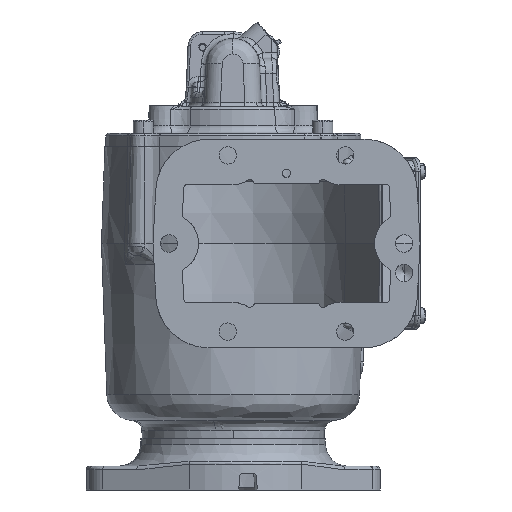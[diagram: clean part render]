
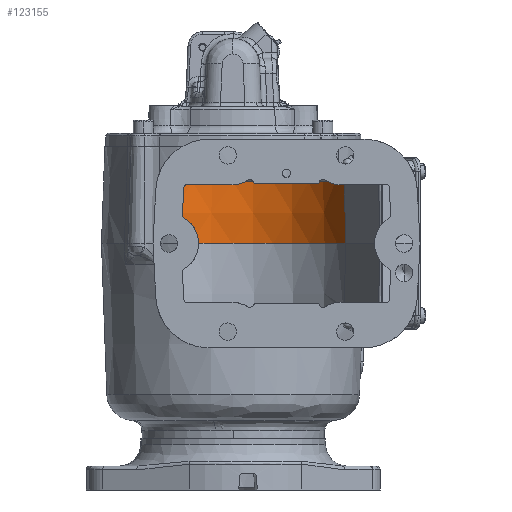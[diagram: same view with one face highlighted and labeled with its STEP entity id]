
A CAD part, front view. The second image highlights one B-rep face of the part: STEP entity #123155.
In plain terms, the highlighted conical face has half-angle 2 degrees and reference radius 71.882 mm.
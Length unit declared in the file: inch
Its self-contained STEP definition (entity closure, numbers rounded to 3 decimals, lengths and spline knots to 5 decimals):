
#4784 = DIRECTION ( 'NONE',  ( 0., 0., 1. ) ) ;
#6928 = DIRECTION ( 'NONE',  ( 0., 0., 1. ) ) ;
#11391 = ORIENTED_EDGE ( 'NONE', *, *, #82810, .T. ) ;
#29210 = CARTESIAN_POINT ( 'NONE',  ( 1.39203, 4.34378, 0. ) ) ;
#33577 = VERTEX_POINT ( 'NONE', #93646 ) ;
#33675 = EDGE_CURVE ( 'NONE', #193141, #33577, #110424, .T. ) ;
#37535 = EDGE_CURVE ( 'NONE', #54390, #33577, #99983, .T. ) ;
#47349 = DIRECTION ( 'NONE',  ( -0.035, 0., -0.999 ) ) ;
#48370 = CARTESIAN_POINT ( 'NONE',  ( -4.08, 3.3296, 0. ) ) ;
#54390 = VERTEX_POINT ( 'NONE', #103411 ) ;
#54956 = DIRECTION ( 'NONE',  ( 0., -1., 0. ) ) ;
#62910 = AXIS2_PLACEMENT_3D ( 'NONE', #149823, #6928, #103574 ) ;
#72131 = ORIENTED_EDGE ( 'NONE', *, *, #102020, .T. ) ;
#82088 = DIRECTION ( 'NONE',  ( 0., 0., -1. ) ) ;
#82810 = EDGE_CURVE ( 'NONE', #138808, #185829, #197184, .T. ) ;
#89918 = ORIENTED_EDGE ( 'NONE', *, *, #37535, .F. ) ;
#91655 = CARTESIAN_POINT ( 'NONE',  ( -1.25, 3.3296, 1.44209 ) ) ;
#93322 = DIRECTION ( 'NONE',  ( -0.033, -0.013, 0.999 ) ) ;
#93646 = CARTESIAN_POINT ( 'NONE',  ( -4.08, 3.3296, 0. ) ) ;
#97887 = CARTESIAN_POINT ( 'NONE',  ( -1.25, 3.3296, 0. ) ) ;
#99983 = CIRCLE ( 'NONE', #106722, 2.83 ) ;
#102020 = EDGE_CURVE ( 'NONE', #185829, #193141, #156983, .T. ) ;
#103411 = CARTESIAN_POINT ( 'NONE',  ( 1.39203, 4.34378, 0. ) ) ;
#103574 = DIRECTION ( 'NONE',  ( 0., -1., 0. ) ) ;
#106722 = AXIS2_PLACEMENT_3D ( 'NONE', #191155, #4784, #117198 ) ;
#109038 = LINE ( 'NONE', #29210, #188680 ) ;
#110424 = LINE ( 'NONE', #48370, #178352 ) ;
#111405 = CONICAL_SURFACE ( 'NONE', #198746, 2.83, 0.035 ) ;
#111900 = EDGE_LOOP ( 'NONE', ( #11391, #72131, #122339, #89918, #139882 ) ) ;
#116639 = AXIS2_PLACEMENT_3D ( 'NONE', #91655, #198959, #54956 ) ;
#117198 = DIRECTION ( 'NONE',  ( 0., -1., 0. ) ) ;
#122339 = ORIENTED_EDGE ( 'NONE', *, *, #33675, .T. ) ;
#123155 = ADVANCED_FACE ( 'NONE', ( #130461 ), #111405, .F. ) ;
#124539 = EDGE_CURVE ( 'NONE', #54390, #138808, #109038, .T. ) ;
#130461 = FACE_OUTER_BOUND ( 'NONE', #111900, .T. ) ;
#138808 = VERTEX_POINT ( 'NONE', #198334 ) ;
#139882 = ORIENTED_EDGE ( 'NONE', *, *, #124539, .T. ) ;
#148290 = DIRECTION ( 'NONE',  ( -1., 0., 0. ) ) ;
#149823 = CARTESIAN_POINT ( 'NONE',  ( -1.25, 3.3296, 1.44209 ) ) ;
#156983 = CIRCLE ( 'NONE', #116639, 2.77964 ) ;
#172790 = CARTESIAN_POINT ( 'NONE',  ( -1.25, 6.10924, 1.44209 ) ) ;
#178352 = VECTOR ( 'NONE', #47349, 39.37008 ) ;
#185829 = VERTEX_POINT ( 'NONE', #172790 ) ;
#187956 = CARTESIAN_POINT ( 'NONE',  ( -4.02964, 3.3296, 1.44209 ) ) ;
#188680 = VECTOR ( 'NONE', #93322, 39.37008 ) ;
#191155 = CARTESIAN_POINT ( 'NONE',  ( -1.25, 3.3296, 0. ) ) ;
#193141 = VERTEX_POINT ( 'NONE', #187956 ) ;
#197184 = CIRCLE ( 'NONE', #62910, 2.77964 ) ;
#198334 = CARTESIAN_POINT ( 'NONE',  ( 1.34502, 4.32573, 1.44209 ) ) ;
#198746 = AXIS2_PLACEMENT_3D ( 'NONE', #97887, #82088, #148290 ) ;
#198959 = DIRECTION ( 'NONE',  ( 0., 0., 1. ) ) ;
